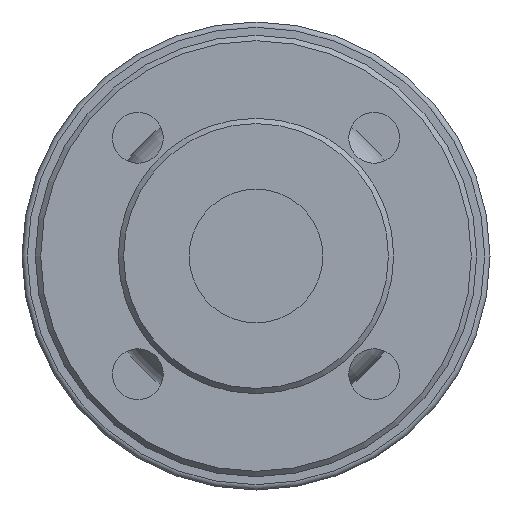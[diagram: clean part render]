
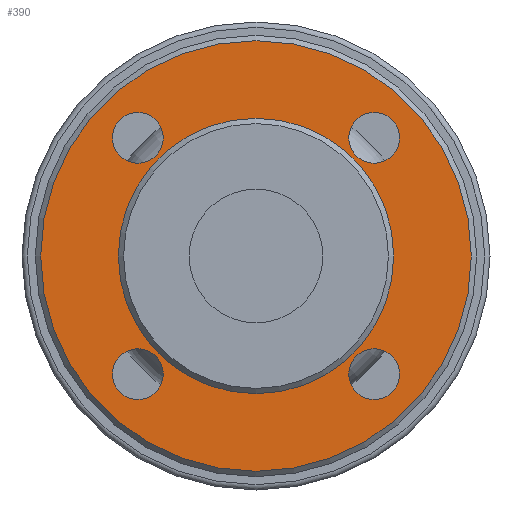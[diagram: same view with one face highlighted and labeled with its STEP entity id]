
A CAD part, front view. The second image highlights one B-rep face of the part: STEP entity #390.
In plain terms, the highlighted planar face has unit normal (0, -1, 0).
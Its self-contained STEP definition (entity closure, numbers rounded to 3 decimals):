
#390=ADVANCED_FACE('',(#1287,#1289,#1291,#1293,#1295,#1297),#1299,.F.);
#1287=FACE_BOUND('',#1288,.T.);
#1288=EDGE_LOOP('',(#3772));
#1289=FACE_BOUND('',#1290,.T.);
#1290=EDGE_LOOP('',(#3773));
#1291=FACE_BOUND('',#1292,.T.);
#1292=EDGE_LOOP('',(#3774));
#1293=FACE_BOUND('',#1294,.T.);
#1294=EDGE_LOOP('',(#3775));
#1295=FACE_BOUND('',#1296,.T.);
#1296=EDGE_LOOP('',(#3776));
#1297=FACE_BOUND('',#1298,.T.);
#1298=EDGE_LOOP('',(#3777));
#1299=PLANE('',#1300);
#1300=AXIS2_PLACEMENT_3D('',#1301,#1302,#1303);
#1301=CARTESIAN_POINT('',(0.,2.,0.));
#1302=DIRECTION('',(0.,1.,0.));
#1303=DIRECTION('',(1.,0.,0.));
#3772=ORIENTED_EDGE('',*,*,#4609,.F.);
#3773=ORIENTED_EDGE('',*,*,#4608,.F.);
#3774=ORIENTED_EDGE('',*,*,#4607,.F.);
#3775=ORIENTED_EDGE('',*,*,#4605,.F.);
#3776=ORIENTED_EDGE('',*,*,#4603,.F.);
#3777=ORIENTED_EDGE('',*,*,#4601,.F.);
#4601=EDGE_CURVE('',#5025,#5025,#5026,.T.);
#4603=EDGE_CURVE('',#5029,#5029,#5030,.T.);
#4605=EDGE_CURVE('',#5033,#5033,#5034,.T.);
#4607=EDGE_CURVE('',#5037,#5037,#5038,.T.);
#4608=EDGE_CURVE('',#5039,#5039,#5040,.T.);
#4609=EDGE_CURVE('',#5041,#5041,#5042,.T.);
#5025=VERTEX_POINT('',#6258);
#5026=CIRCLE('',#6259,9.5);
#5029=VERTEX_POINT('',#6268);
#5030=CIRCLE('',#6269,9.5);
#5033=VERTEX_POINT('',#6278);
#5034=CIRCLE('',#6279,9.5);
#5037=VERTEX_POINT('',#6288);
#5038=CIRCLE('',#6289,9.5);
#5039=VERTEX_POINT('',#6293);
#5040=CIRCLE('',#6294,51.5);
#5041=VERTEX_POINT('',#6298);
#5042=CIRCLE('',#6299,80.5);
#6258=CARTESIAN_POINT('',(44.194,2.,34.694));
#6259=AXIS2_PLACEMENT_3D('',#6260,#6261,#6262);
#6260=CARTESIAN_POINT('',(44.194,2.,44.194));
#6261=DIRECTION('',(0.,-1.,0.));
#6262=DIRECTION('',(0.,0.,-1.));
#6268=CARTESIAN_POINT('',(-44.194,2.,34.694));
#6269=AXIS2_PLACEMENT_3D('',#6270,#6271,#6272);
#6270=CARTESIAN_POINT('',(-44.194,2.,44.194));
#6271=DIRECTION('',(0.,-1.,0.));
#6272=DIRECTION('',(0.,0.,-1.));
#6278=CARTESIAN_POINT('',(-44.194,2.,-53.694));
#6279=AXIS2_PLACEMENT_3D('',#6280,#6281,#6282);
#6280=CARTESIAN_POINT('',(-44.194,2.,-44.194));
#6281=DIRECTION('',(0.,-1.,0.));
#6282=DIRECTION('',(0.,0.,-1.));
#6288=CARTESIAN_POINT('',(44.194,2.,-53.694));
#6289=AXIS2_PLACEMENT_3D('',#6290,#6291,#6292);
#6290=CARTESIAN_POINT('',(44.194,2.,-44.194));
#6291=DIRECTION('',(0.,-1.,0.));
#6292=DIRECTION('',(0.,0.,-1.));
#6293=CARTESIAN_POINT('',(0.,2.,51.5));
#6294=AXIS2_PLACEMENT_3D('',#6295,#6296,#6297);
#6295=CARTESIAN_POINT('',(0.,2.,0.));
#6296=DIRECTION('',(0.,-1.,0.));
#6297=DIRECTION('',(0.,0.,1.));
#6298=CARTESIAN_POINT('',(0.,2.,-80.5));
#6299=AXIS2_PLACEMENT_3D('',#6300,#6301,#6302);
#6300=CARTESIAN_POINT('',(0.,2.,0.));
#6301=DIRECTION('',(0.,1.,0.));
#6302=DIRECTION('',(0.,0.,-1.));
